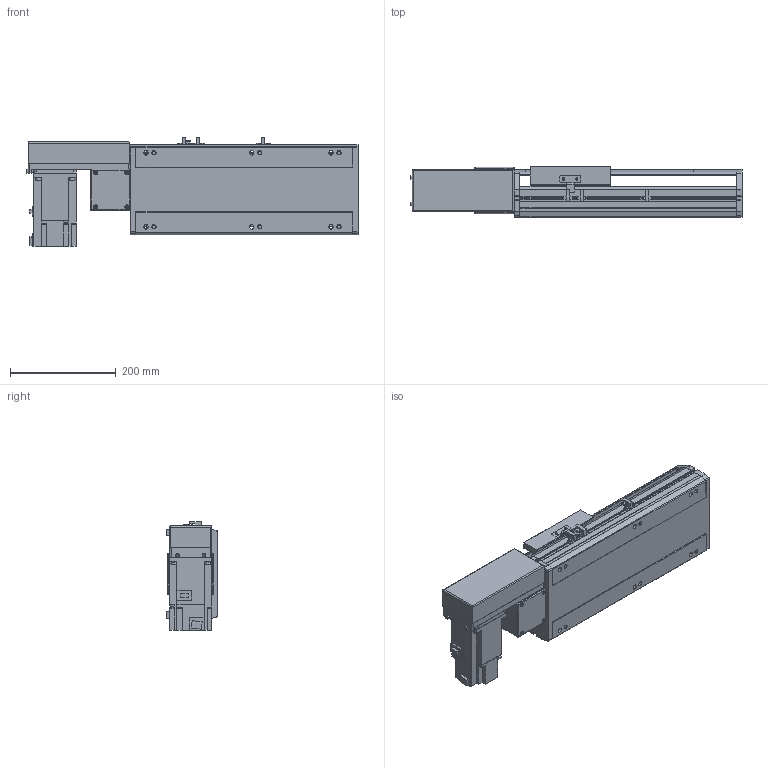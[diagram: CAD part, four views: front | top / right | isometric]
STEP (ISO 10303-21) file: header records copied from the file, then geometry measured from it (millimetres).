
FILE_DESCRIPTION(/* description */ ('STEP AP214'),/* implementation_level */ '2;1');
FILE_NAME(/* name */ 'PBS170-P40-S150-R-T75-C1-N(0)',/* time_stamp */ '2022-06-07T09:28:51+02:00',/* author */ ('License CC BY-ND 4.0'),/* organization */ ('CADENAS'),/* preprocessor_version */ 'ST-DEVELOPER v18.102',/* originating_system */ 'PARTsolutions',/* authorisation */ ' ');
FILE_SCHEMA (('AUTOMOTIVE_DESIGN {1 0 10303 214 3 1 1}'));
Length unit declared in the file: millimetre
Products named in the file (7): PBS170-P40-S150-R-T75-C1-N(0); PBS170_sensor; PBS170_plant; PBS170_sliser; T75-p1; PBS170T-R_motors; PBS170-S150()_body
Assembly tree (8 placements, depth 2):
  PBS170-P40-S150-R-T75-C1-N(0)
    PBS170_sensor  x3
    PBS170_plant
    PBS170_sliser
    T75-p1
    PBS170T-R_motors
    PBS170-S150()_body
Bounding box: 628 x 97 x 205.3 mm (x, y, z)
Volume: 4934499.5 mm3; surface area: 709228.3 mm2
Topology: 8 solids, 8 shells, 1002 faces, 2675 edges, 1744 vertices
Faces by surface type: plane 657, cylinder 299, cone 36, sphere 8, torus 2
Full cylindrical faces by diameter (mm): 3.242 x4, 4 x2, 4.4 x4, 4.5 x6, 4.917 x4, 6 x9, 6.647 x14, 7 x2, 7.5 x4, 8 x8, 8.5 x6, 10 x4, 10.5 x6, 11 x2, 30 x2, 40 x1, 70 x1
Entity records: 28828 total; most frequent: CARTESIAN_POINT 5153, DIRECTION 4950, ORIENTED_EDGE 4728, EDGE_CURVE 2364, AXIS2_PLACEMENT_3D 1687, VERTEX_POINT 1610, LINE 1576, VECTOR 1576
